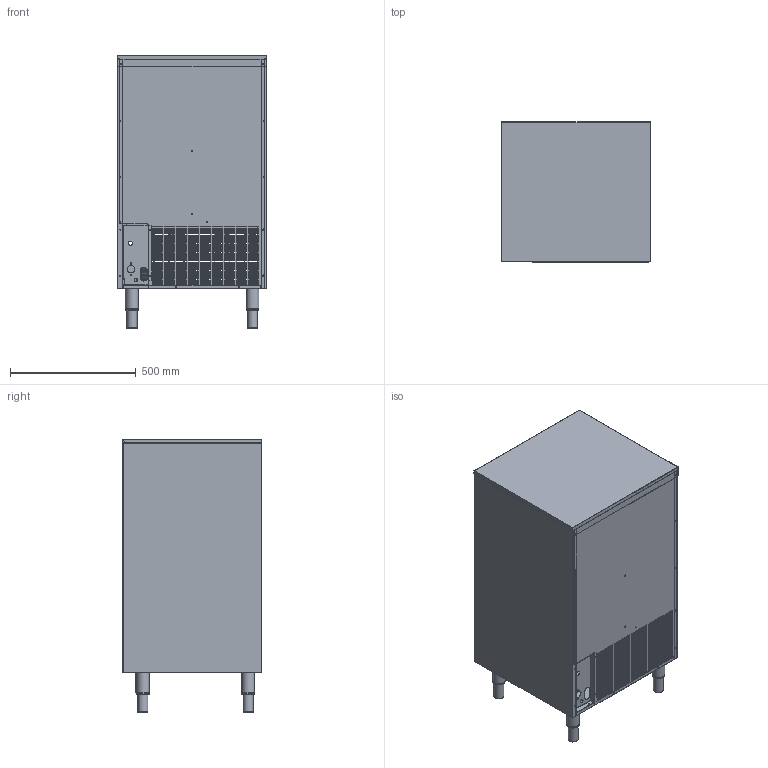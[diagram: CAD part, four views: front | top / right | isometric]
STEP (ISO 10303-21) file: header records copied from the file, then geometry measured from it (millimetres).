
FILE_DESCRIPTION(/* description */ ('Unknown'),/* implementation_level */ '2;1');
FILE_NAME(/* name */ 'NGQ60',/* time_stamp */ '2018-04-23T11:00:13+02:00',/* author */ ('Unknown'),/* organization */ ('Unknown'),/* preprocessor_version */ 'ST-DEVELOPER v16.7',/* originating_system */ 'DEX',/* authorisation */ $);
FILE_SCHEMA (('CONFIG_CONTROL_DESIGN'));
Products named in the file (14): NQ60; Carroceria NQ 60C_oa_0; 41-71+8515; 41-66+8493; 41-63+8520; 41-64+8519; 41-62+8517; 41-62+8518; 41-65+8521; 35-73; 41-70+8522; 41-81+8538_oa_1; 41-82+8532; 32-30
Assembly tree (16 placements, depth 3):
  NQ60
    Carroceria NQ 60C_oa_0
      41-71+8515
      41-66+8493
      41-63+8520
      41-64+8519
      41-62+8517
      41-62+8518
      41-65+8521
      35-73
      41-70+8522
    41-81+8538_oa_1
      41-82+8532
    32-30  x4
Bounding box: 593.4 x 556.7 x 1087.2 mm (x, y, z)
Volume: 3774187.6 mm3; surface area: 6385004.4 mm2
Topology: 14 solids, 14 shells, 3192 faces, 9315 edges, 6055 vertices
Faces by surface type: plane 2121, cylinder 685, bspline 362, torus 16, sphere 4, cone 4
Full cylindrical faces by diameter (mm): 2.7 x34, 3.5 x3, 4.2 x16, 4.25 x30, 4.5 x2, 5 x16, 6 x12, 7 x8, 8 x6, 10 x4, 14 x1, 30 x1, 38 x4, 40 x4, 50 x4, 51 x4
Entity records: 115396 total; most frequent: CARTESIAN_POINT 33201, ORIENTED_EDGE 18076, DIRECTION 14980, EDGE_CURVE 9038, LINE 6316, VECTOR 6316, VERTEX_POINT 5945, AXIS2_PLACEMENT_3D 4332
